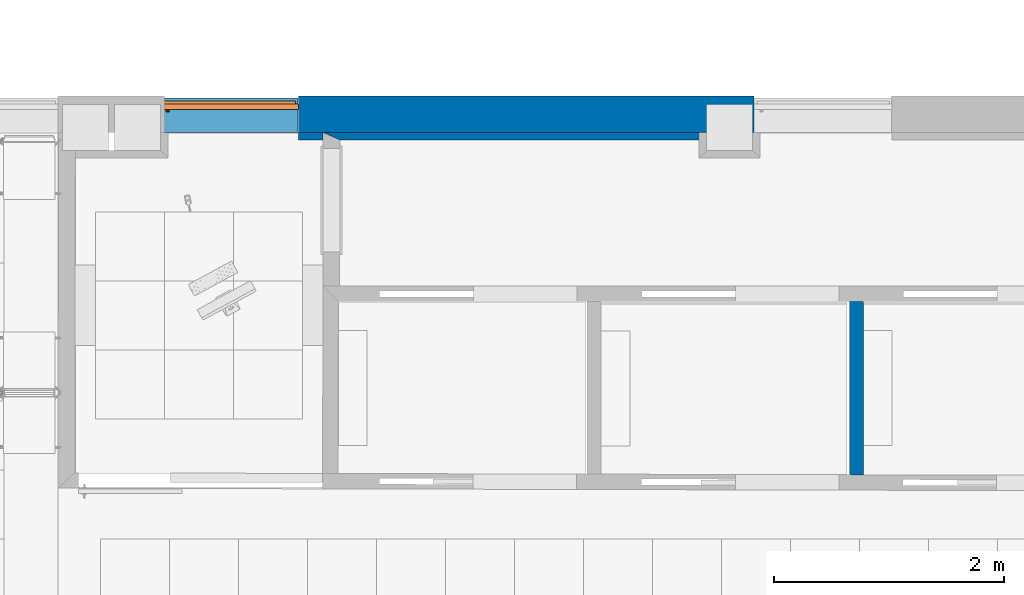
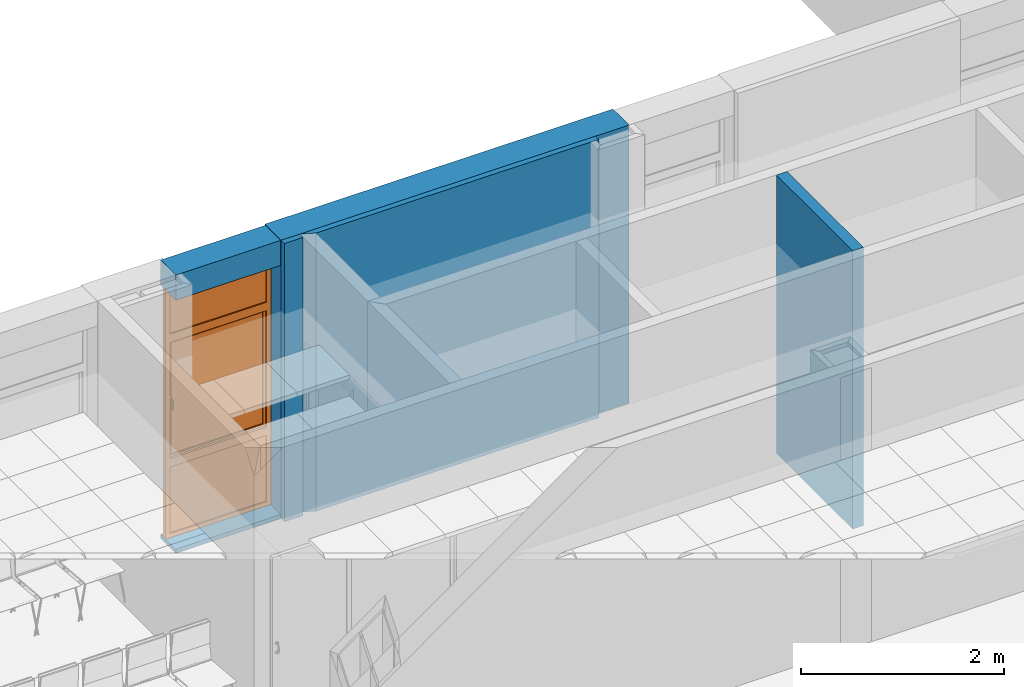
# One storey, part 29 of 68: 5 walls, 1 proxy, 1 opening.
"""IFC2X3 building model written with IfcOpenShell, lengths in millimetres."""

from ifc_helpers import new_model, entity, si_unit, converted_unit, derived_unit, money_unit, direction, frame, origin_with_axes, origin_2d_with_axis, place, context, subcontext, project, spatial, polyline, rectangle, outline, extrude, open_shell, faceted_brep, surface_model, source, transform, mapped, material, layer, layer_set, layer_usage, type_object, element, fill, save


model = new_model("IFC2X3")

# Units and contexts
model_context = context("Model", 3, precision=0.01, world=origin_with_axes(), true_north=direction((0.0, 1.0)))
body_context = subcontext(model_context, "Body", "Model", "MODEL_VIEW")
ifc_project = project(units=[si_unit("LENGTHUNIT", "METRE", prefix="MILLI"), si_unit("AREAUNIT", "SQUARE_METRE"), si_unit("VOLUMEUNIT", "CUBIC_METRE"), converted_unit("PLANEANGLEUNIT", "DEGREE", entity("IfcPlaneAngleMeasure", 0.0174532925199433), si_unit("PLANEANGLEUNIT", "RADIAN"), dimensions=[0, 0, 0, 0, 0, 0, 0]), money_unit("USD"), converted_unit("TIMEUNIT", "Year", entity("IfcTimeMeasure", 31557600.0), si_unit("TIMEUNIT", "SECOND"), dimensions=[0, 0, 1, 0, 0, 0, 0]), si_unit("MASSUNIT", "GRAM", prefix="KILO"), si_unit("THERMODYNAMICTEMPERATUREUNIT", "DEGREE_CELSIUS"), si_unit("LUMINOUSINTENSITYUNIT", "LUMEN"), si_unit("ENERGYUNIT", "JOULE", prefix="MEGA"), derived_unit("THERMALCONDUCTANCEUNIT", [(si_unit("POWERUNIT", "WATT"), 1), (si_unit("LENGTHUNIT", "METRE"), -1), (si_unit("THERMODYNAMICTEMPERATUREUNIT", "KELVIN"), -1)]), derived_unit("SPECIFICHEATCAPACITYUNIT", [(si_unit("ENERGYUNIT", "JOULE"), 1), (si_unit("MASSUNIT", "GRAM", prefix="KILO"), -1), (si_unit("THERMODYNAMICTEMPERATUREUNIT", "KELVIN"), -1)]), derived_unit("MASSDENSITYUNIT", [(si_unit("MASSUNIT", "GRAM", prefix="KILO"), 1), (si_unit("VOLUMEUNIT", "CUBIC_METRE"), -1)])], contexts=[model_context])

# Site, building, storey
site_placement = place(None, origin_with_axes())
site = spatial("IfcSite", under=ifc_project, at=site_placement, Name="Sitio", CompositionType="ELEMENT")
building_placement = place(site_placement, origin_with_axes())
building = spatial("IfcBuilding", under=site, at=building_placement, Name="Construcción", CompositionType="ELEMENT")
storey_placement = place(building_placement, origin_with_axes())
storey = spatial("IfcBuildingStorey", under=building, at=storey_placement, Name="PLANTA 1ª", CompositionType="ELEMENT", Elevation=0.0)

# Wall, opening, proxy
ifc_material_1 = material(Name="ARQ_AM246_Arrebossat_De_Guix")
ifc_layer_1 = layer(ifc_material_1, 20.0, ventilated="UNKNOWN")
ifc_material_2 = material(Name="ARQ_CE217_Gero")
ifc_layer_2 = layer(ifc_material_2, 110.0, ventilated="UNKNOWN")
ifc_material_3 = material(Name="ARQ_AI031_Aillament_Poliestireno expandido EPS")
ifc_layer_3 = layer(ifc_material_3, 100.0, ventilated="UNKNOWN")
ifc_material_4 = material(Name="ARQ_CE218_Ceramic")
ifc_layer_4 = layer(ifc_material_4, 50.0, ventilated="UNKNOWN")
ifc_layer_5 = layer(ifc_material_1, 20.0, ventilated="UNKNOWN")
ifc_layer_set_1 = layer_set([ifc_layer_1, ifc_layer_2, ifc_layer_3, ifc_layer_4, ifc_layer_5], Name="façana pati CR3 (ampit)")
ifc_layer_usage_1 = layer_usage(ifc_layer_set_1, "AXIS2", "POSITIVE", -300.0000000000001)
wall_type_1 = type_object("IfcWallType", Name="façana pati CR3 (ampit) 300", PredefinedType="NOTDEFINED")
wall_1_placement = place(storey_placement, frame((-11002.41799369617, -12338.97582371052, 0.0), z_axis=(0.0, 0.0, 1.0), x_axis=(-1.0, 0.0, 0.0)))
wall_1 = element("IfcWallStandardCase", 1, at=wall_1_placement, inside=storey, type_object=wall_type_1, material=ifc_layer_usage_1, Name="MS-201", context=body_context, shape_type="SweptSolid", body=[
    extrude(outline(polyline([(0.0, -300.0000000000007), (1194.999999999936, -300.0000000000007), (1194.999999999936, 0.0), (0.0, 0.0), (0.0, -300.0000000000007)])), origin_with_axes(), (0.0, 0.0, 1.0), 3350.0),
])
opening_placement = place(wall_1_placement, frame((594.9999999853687, 0.0, 50.0), z_axis=(0.0, 0.0, 1.0), x_axis=(1.0, 0.0, 0.0)))
opening = element("IfcOpeningElement", 2, at=opening_placement, cuts=wall_1, Name="F01", context=body_context, shape_type="SweptSolid", body=[
    extrude(rectangle(XDim=1200.000000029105, YDim=3000.0, at=origin_2d_with_axis()), frame((0.0, -250.0, 1500.0), z_axis=(0.0, -1.0, 0.0), x_axis=(-1.0, 0.0, 0.0)), (0.0, 0.0, -1.0), 550.0),
    extrude(rectangle(XDim=1200.000000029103, YDim=3000.0, at=origin_2d_with_axis()), frame((0.0, -250.0, 1500.0), z_axis=(0.0, 1.0, 0.0), x_axis=(-1.0, 0.0, 0.0)), (0.0, 0.0, -1.0), 350.0000000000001),
])
building_element_proxy_type = type_object("IfcBuildingElementProxyType", Name="Ventana Vertical Multi-Faja 27", PredefinedType="NOTDEFINED")
shared_shape = source(origin_with_axes(), body_context, "Body", "SurfaceModel", [
    faceted_brep([(-575.0000000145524, 0.0, 925.0), (-550.0000000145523, 0.0, 925.0), (-550.0000000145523, 0.0, 850.0), (-550.0000000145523, 0.0, 50.00000000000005), (-600.0000000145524, 0.0, 50.00000000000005), (-600.0000000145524, 0.0, 2950.0), (-550.0000000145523, 0.0, 2950.0), (-550.0000000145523, 0.0, 2450.0), (-550.0000000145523, 0.0, 2375.0), (-575.0000000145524, 0.0, 2375.0), (-575.0000000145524, -25.00000000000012, 925.0), (-550.0000000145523, -25.00000000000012, 925.0), (-550.0000000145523, -25.00000000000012, 950.0000000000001), (-550.0000000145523, -50.00000000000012, 950.0000000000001), (-550.0000000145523, -50.00000000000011, 850.0), (-550.0000000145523, -50.00000000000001, 50.00000000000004), (-600.0000000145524, -50.00000000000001, 50.00000000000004), (-600.0000000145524, -50.00000000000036, 2950.0), (-550.0000000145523, -50.00000000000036, 2950.0), (-550.0000000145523, -50.0000000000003, 2450.0), (-550.0000000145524, -25.00000000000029, 2375.0), (-550.0000000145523, -50.00000000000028, 2350.0), (-550.0000000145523, -25.00000000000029, 2350.0), (-575.0000000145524, -25.00000000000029, 2375.0)], [[[0, 1, 2, 3, 4, 5, 6, 7, 8, 9]], [[0, 10, 11, 1]], [[11, 12, 13, 14, 2, 1]], [[3, 2, 14, 15]], [[4, 3, 15, 16]], [[5, 4, 16, 17]], [[6, 5, 17, 18]], [[7, 6, 18, 19]], [[20, 8, 7, 19, 21, 22]], [[20, 23, 9, 8]], [[9, 23, 10, 0]], [[22, 12, 11, 10, 23, 20]], [[22, 21, 13, 12]], [[17, 16, 15, 14, 13, 21, 19, 18]]]),
    faceted_brep([(575.0000000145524, 0.0, 925.0), (575.0000000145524, 0.0, 2375.0), (550.0000000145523, 0.0, 2375.0), (550.0000000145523, 0.0, 2450.0), (550.0000000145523, 0.0, 2950.0), (600.0000000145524, 0.0, 2950.0), (600.0000000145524, 0.0, 50.00000000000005), (550.0000000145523, 0.0, 50.00000000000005), (550.0000000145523, 0.0, 850.0), (550.0000000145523, 0.0, 925.0), (575.0000000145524, -25.00000000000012, 925.0), (575.0000000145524, -25.00000000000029, 2375.0), (550.0000000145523, -25.00000000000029, 2375.0), (550.0000000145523, -25.00000000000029, 2350.0), (550.0000000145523, -50.00000000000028, 2350.0), (550.0000000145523, -50.0000000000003, 2450.0), (550.0000000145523, -50.00000000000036, 2950.0), (600.0000000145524, -50.00000000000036, 2950.0), (600.0000000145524, -50.00000000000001, 50.00000000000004), (550.0000000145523, -50.00000000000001, 50.00000000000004), (550.0000000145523, -50.00000000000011, 850.0), (550.0000000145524, -25.00000000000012, 925.0), (550.0000000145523, -50.00000000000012, 950.0000000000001), (550.0000000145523, -25.00000000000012, 950.0000000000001)], [[[0, 1, 2, 3, 4, 5, 6, 7, 8, 9]], [[0, 10, 11, 1]], [[1, 11, 12, 2]], [[12, 13, 14, 15, 3, 2]], [[4, 3, 15, 16]], [[5, 4, 16, 17]], [[6, 5, 17, 18]], [[7, 6, 18, 19]], [[8, 7, 19, 20]], [[21, 9, 8, 20, 22, 23]], [[9, 21, 10, 0]], [[12, 11, 10, 21, 23, 13]], [[23, 22, 14, 13]], [[14, 22, 20, 19, 18, 17, 16, 15]]]),
    faceted_brep([(-550.0000000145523, -25.00000000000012, 950.0000000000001), (-550.0000000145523, -50.00000000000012, 950.0000000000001), (550.0000000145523, -50.00000000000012, 950.0000000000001), (550.0000000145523, -25.00000000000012, 950.0000000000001), (-550.0000000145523, -25.00000000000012, 925.0), (-550.0000000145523, 0.0, 925.0), (-550.0000000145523, 0.0, 850.0), (-550.0000000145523, -50.00000000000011, 850.0), (550.0000000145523, -50.00000000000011, 850.0), (550.0000000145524, -25.00000000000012, 925.0), (550.0000000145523, 0.0, 850.0), (550.0000000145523, 0.0, 925.0)], [[[0, 1, 2, 3]], [[4, 5, 6, 7, 1, 0]], [[1, 7, 8, 2]], [[9, 3, 2, 8, 10, 11]], [[9, 4, 0, 3]], [[5, 4, 9, 11]], [[11, 10, 6, 5]], [[6, 10, 8, 7]]]),
    faceted_brep([(-550.0000000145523, 0.0, 2375.0), (-550.0000000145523, 0.0, 2450.0), (550.0000000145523, 0.0, 2450.0), (550.0000000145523, 0.0, 2375.0), (-550.0000000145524, -25.00000000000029, 2375.0), (-550.0000000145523, -25.00000000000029, 2350.0), (-550.0000000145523, -50.00000000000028, 2350.0), (-550.0000000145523, -50.0000000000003, 2450.0), (550.0000000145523, -50.0000000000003, 2450.0), (550.0000000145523, -25.00000000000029, 2375.0), (550.0000000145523, -50.00000000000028, 2350.0), (550.0000000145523, -25.00000000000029, 2350.0)], [[[0, 1, 2, 3]], [[4, 5, 6, 7, 1, 0]], [[2, 1, 7, 8]], [[9, 3, 2, 8, 10, 11]], [[9, 4, 0, 3]], [[11, 5, 4, 9]], [[11, 10, 6, 5]], [[7, 6, 10, 8]]]),
    faceted_brep([(550.0000000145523, -50.00000000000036, 2950.0), (550.0000000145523, 0.0, 2950.0), (600.0000000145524, 0.0, 2950.0), (600.0000000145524, -50.00000000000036, 2950.0), (-550.0000000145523, -50.00000000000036, 2950.0), (-550.0000000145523, 0.0, 2950.0), (-600.0000000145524, 0.0, 2950.0), (-600.0000000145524, 0.0, 3000.0), (600.0000000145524, 0.0, 3000.0), (600.0000000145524, -50.00000000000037, 3000.0), (-600.0000000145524, -50.00000000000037, 3000.0), (-600.0000000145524, -50.00000000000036, 2950.0)], [[[0, 1, 2, 3]], [[4, 5, 1, 0]], [[1, 5, 6, 7, 8, 2]], [[3, 2, 8, 9]], [[0, 3, 9, 10, 11, 4]], [[11, 6, 5, 4]], [[10, 7, 6, 11]], [[9, 8, 7, 10]]]),
    faceted_brep([(-550.0000000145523, -50.00000000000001, 50.0), (-550.0000000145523, 0.0, 50.00000000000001), (-600.0000000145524, 0.0, 50.00000000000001), (-600.0000000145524, -50.00000000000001, 50.0), (550.0000000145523, -50.00000000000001, 50.0), (550.0000000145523, 0.0, 50.00000000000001), (600.0000000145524, 0.0, 50.00000000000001), (600.0000000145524, 0.0, 0.0), (-600.0000000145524, 0.0, 0.0), (-600.0000000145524, -50.0, 0.0), (600.0000000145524, -50.0, 0.0), (600.0000000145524, -50.00000000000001, 50.0)], [[[0, 1, 2, 3]], [[4, 5, 1, 0]], [[1, 5, 6, 7, 8, 2]], [[3, 2, 8, 9]], [[0, 3, 9, 10, 11, 4]], [[11, 6, 5, 4]], [[10, 7, 6, 11]], [[9, 8, 7, 10]]]),
    surface_model("IfcShellBasedSurfaceModel", [(-550.0000000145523, -35.0, 49.99999999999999), (550.0000000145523, -35.0, 49.99999999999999), (550.0000000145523, -35.0000000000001, 850.0), (-550.0000000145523, -35.0000000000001, 850.0)], [open_shell([[[0, 1, 2, 3]]])]),
    surface_model("IfcShellBasedSurfaceModel", [(-550.0000000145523, -15.0, 49.99999999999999), (-550.0000000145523, -15.0000000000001, 850.0), (550.0000000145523, -15.0000000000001, 850.0), (550.0000000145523, -15.0, 49.99999999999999)], [open_shell([[[0, 1, 2, 3]]])]),
    faceted_brep([(-521.5000000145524, -25.00000000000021, 1677.0), (-522.839745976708, -25.00000000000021, 1682.0), (-522.839745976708, -37.00000000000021, 1682.0), (-521.5000000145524, -37.00000000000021, 1677.0), (-521.5000000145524, -25.0000000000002, 1623.0), (-522.839745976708, -25.0000000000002, 1618.0), (-526.5000000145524, -25.0000000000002, 1614.339745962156), (-531.5000000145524, -25.0000000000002, 1613.0), (-543.5000000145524, -25.0000000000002, 1613.0), (-548.5000000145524, -25.0000000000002, 1614.339745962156), (-552.1602540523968, -25.0000000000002, 1618.0), (-553.5000000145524, -25.0000000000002, 1623.0), (-553.5000000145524, -25.00000000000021, 1677.0), (-552.1602540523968, -25.00000000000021, 1682.0), (-548.5000000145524, -25.00000000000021, 1685.660254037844), (-543.5000000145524, -25.00000000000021, 1687.0), (-531.5000000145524, -25.00000000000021, 1687.0), (-526.5000000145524, -25.00000000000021, 1685.660254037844), (-526.5000000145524, -37.00000000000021, 1685.660254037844), (-531.5000000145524, -37.00000000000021, 1687.0), (-543.5000000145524, -37.00000000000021, 1687.0), (-548.5000000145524, -37.00000000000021, 1685.660254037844), (-552.1602540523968, -37.00000000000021, 1682.0), (-553.5000000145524, -37.00000000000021, 1677.0), (-553.5000000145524, -37.0000000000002, 1623.0), (-552.1602540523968, -37.0000000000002, 1618.0), (-548.5000000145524, -37.0000000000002, 1614.339745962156), (-543.5000000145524, -37.0000000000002, 1613.0), (-531.5000000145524, -37.0000000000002, 1613.0), (-526.5000000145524, -37.0000000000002, 1614.339745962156), (-522.839745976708, -37.0000000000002, 1618.0), (-521.5000000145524, -37.0000000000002, 1623.0)], [[[0, 1, 2, 3]], [[0, 4, 5, 6, 7, 8, 9, 10, 11, 12, 13, 14, 15, 16, 17, 1]], [[1, 17, 18, 2]], [[3, 2, 18, 19, 20, 21, 22, 23, 24, 25, 26, 27, 28, 29, 30, 31]], [[4, 0, 3, 31]], [[5, 4, 31, 30]], [[6, 5, 30, 29]], [[7, 6, 29, 28]], [[8, 7, 28, 27]], [[9, 8, 27, 26]], [[10, 9, 26, 25]], [[11, 10, 25, 24]], [[12, 11, 24, 23]], [[13, 12, 23, 22]], [[14, 13, 22, 21]], [[15, 14, 21, 20]], [[16, 15, 20, 19]], [[17, 16, 19, 18]]]),
    faceted_brep([(-537.5000000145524, -37.0000000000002, 1663.5), (-544.2500000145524, -37.0000000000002, 1661.69134295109), (-544.2500000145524, -61.00000000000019, 1661.69134295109), (-537.5000000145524, -61.00000000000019, 1663.5), (-530.7500000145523, -37.0000000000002, 1661.69134295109), (-525.8086570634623, -37.0000000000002, 1656.75), (-524.0000000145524, -37.0000000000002, 1650.0), (-525.8086570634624, -37.0000000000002, 1643.25), (-530.7500000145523, -37.0000000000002, 1638.30865704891), (-537.5000000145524, -37.0000000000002, 1636.5), (-544.2500000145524, -37.0000000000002, 1638.30865704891), (-549.1913429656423, -37.0000000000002, 1643.25), (-551.0000000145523, -37.0000000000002, 1650.0), (-549.1913429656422, -37.0000000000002, 1656.75), (-549.1913429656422, -61.00000000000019, 1656.75), (-551.0000000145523, -61.00000000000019, 1650.0), (-549.1913429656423, -61.00000000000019, 1643.25), (-544.2500000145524, -61.00000000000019, 1638.30865704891), (-537.5000000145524, -61.00000000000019, 1636.5), (-530.7500000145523, -61.00000000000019, 1638.30865704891), (-525.8086570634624, -61.00000000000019, 1643.25), (-524.0000000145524, -61.00000000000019, 1650.0), (-525.8086570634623, -61.00000000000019, 1656.75), (-530.7500000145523, -61.00000000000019, 1661.69134295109)], [[[0, 1, 2, 3]], [[0, 4, 5, 6, 7, 8, 9, 10, 11, 12, 13, 1]], [[1, 13, 14, 2]], [[3, 2, 14, 15, 16, 17, 18, 19, 20, 21, 22, 23]], [[4, 0, 3, 23]], [[5, 4, 23, 22]], [[6, 5, 22, 21]], [[7, 6, 21, 20]], [[8, 7, 20, 19]], [[9, 8, 19, 18]], [[10, 9, 18, 17]], [[11, 10, 17, 16]], [[12, 11, 16, 15]], [[13, 12, 15, 14]]]),
    faceted_brep([(-526.0000000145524, -61.00000000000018, 1543.0), (-537.5000000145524, -61.00000000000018, 1540.0), (-549.0000000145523, -61.00000000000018, 1543.0), (-551.0000000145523, -61.00000000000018, 1546.0), (-551.0000000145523, -61.00000000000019, 1650.0), (-549.1913429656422, -61.00000000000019, 1656.75), (-544.2500000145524, -61.00000000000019, 1661.69134295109), (-537.5000000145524, -61.00000000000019, 1663.5), (-530.7500000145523, -61.00000000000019, 1661.69134295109), (-525.8086570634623, -61.00000000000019, 1656.75), (-524.0000000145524, -61.00000000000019, 1650.0), (-524.0000000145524, -61.00000000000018, 1546.0), (-525.9999999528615, -69.00000000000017, 1543.000000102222), (-537.4999999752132, -69.00000000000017, 1539.999999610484), (-548.9999999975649, -69.00000000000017, 1543.000000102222), (-551.0000003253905, -69.00000000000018, 1545.999999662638), (-551.0000003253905, -69.0000000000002, 1649.99999994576), (-549.1913430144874, -69.0000000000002, 1656.749999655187), (-544.2499996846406, -69.0000000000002, 1661.691342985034), (-537.4999999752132, -69.0000000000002, 1663.500000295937), (-530.7500002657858, -69.0000000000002, 1661.691342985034), (-525.808656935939, -69.0000000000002, 1656.749999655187), (-523.9999996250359, -69.0000000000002, 1649.99999994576), (-523.9999996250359, -69.00000000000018, 1545.999999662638), (-527.8625374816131, -71.99999956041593, 1545.61451963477), (-537.4999999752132, -71.99999956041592, 1543.100398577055), (-547.1374624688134, -71.99999956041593, 1545.61451963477), (-548.0000007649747, -71.99999956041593, 1546.908326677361), (-548.0000007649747, -71.99999956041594, 1649.605042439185), (-546.5016170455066, -71.99999956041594, 1655.197085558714), (-542.6970855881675, -71.99999956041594, 1659.001617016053), (-537.4999999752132, -71.99999956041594, 1660.394172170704), (-532.302914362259, -71.99999956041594, 1659.001617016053), (-528.4983829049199, -71.99999956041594, 1655.197085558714), (-526.9999991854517, -71.99999956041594, 1649.605042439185), (-526.9999991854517, -71.99999956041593, 1546.908326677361)], [[[0, 1, 2, 3, 4, 5, 6, 7, 8, 9, 10, 11]], [[1, 0, 12, 13]], [[2, 1, 13, 14]], [[3, 2, 14, 15]], [[4, 3, 15, 16]], [[5, 4, 16, 17]], [[6, 5, 17, 18]], [[7, 6, 18, 19]], [[8, 7, 19, 20]], [[9, 8, 20, 21]], [[10, 9, 21, 22]], [[11, 10, 22, 23]], [[0, 11, 23, 12]], [[13, 12, 24, 25]], [[14, 13, 25, 26]], [[15, 14, 26, 27]], [[16, 15, 27, 28]], [[17, 16, 28, 29]], [[18, 17, 29, 30]], [[19, 18, 30, 31]], [[20, 19, 31, 32]], [[21, 20, 32, 33]], [[22, 21, 33, 34]], [[23, 22, 34, 35]], [[12, 23, 35, 24]], [[26, 25, 24, 35, 34, 33, 32, 31, 30, 29, 28, 27]]]),
    faceted_brep([(-525.0000000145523, -25.00000000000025, 2325.0), (-525.0000000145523, 24.99999999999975, 2325.0), (-575.0000000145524, 24.99999999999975, 2325.0), (-575.0000000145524, -25.00000000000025, 2325.0), (-525.0000000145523, -25.00000000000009, 975.0000000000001), (-525.0000000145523, 24.99999999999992, 975.0000000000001), (-575.0000000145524, 24.99999999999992, 975.0000000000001), (-575.0000000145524, -25.00000000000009, 975.0000000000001)], [[[0, 1, 2, 3]], [[4, 5, 1, 0]], [[1, 5, 6, 2]], [[3, 2, 6, 7]], [[0, 3, 7, 4]], [[7, 6, 5, 4]]]),
    faceted_brep([(525.0000000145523, -25.00000000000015, 975.0000000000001), (525.0000000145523, 24.99999999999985, 975.0000000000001), (575.0000000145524, 24.99999999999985, 975.0000000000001), (575.0000000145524, -25.00000000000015, 975.0000000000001), (525.0000000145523, -25.00000000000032, 2325.0), (525.0000000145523, 24.99999999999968, 2325.0), (575.0000000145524, 24.99999999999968, 2325.0), (575.0000000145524, -25.00000000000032, 2325.0)], [[[0, 1, 2, 3]], [[4, 5, 1, 0]], [[1, 5, 6, 2]], [[3, 2, 6, 7]], [[0, 3, 7, 4]], [[7, 6, 5, 4]]]),
    faceted_brep([(575.0000000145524, -25.00000000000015, 925.0), (575.0000000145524, 24.99999999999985, 925.0), (575.0000000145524, 24.99999999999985, 975.0000000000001), (575.0000000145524, -25.00000000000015, 975.0000000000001), (-575.0000000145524, -25.00000000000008, 925.0), (-575.0000000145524, 24.99999999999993, 925.0), (-575.0000000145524, 24.99999999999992, 975.0000000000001), (-525.0000000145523, 24.99999999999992, 975.0000000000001), (525.0000000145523, 24.99999999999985, 975.0000000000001), (525.0000000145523, -25.00000000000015, 975.0000000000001), (-525.0000000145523, -25.00000000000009, 975.0000000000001), (-575.0000000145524, -25.00000000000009, 975.0000000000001)], [[[0, 1, 2, 3]], [[4, 5, 1, 0]], [[1, 5, 6, 7, 8, 2]], [[3, 2, 8, 9]], [[0, 3, 9, 10, 11, 4]], [[11, 6, 5, 4]], [[10, 7, 6, 11]], [[9, 8, 7, 10]]]),
    faceted_brep([(-575.0000000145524, -25.00000000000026, 2375.0), (-575.0000000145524, 24.99999999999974, 2375.0), (-575.0000000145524, 24.99999999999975, 2325.0), (-575.0000000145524, -25.00000000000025, 2325.0), (575.0000000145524, -25.00000000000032, 2375.0), (575.0000000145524, 24.99999999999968, 2375.0), (575.0000000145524, 24.99999999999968, 2325.0), (525.0000000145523, 24.99999999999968, 2325.0), (-525.0000000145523, 24.99999999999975, 2325.0), (-525.0000000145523, -25.00000000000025, 2325.0), (525.0000000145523, -25.00000000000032, 2325.0), (575.0000000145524, -25.00000000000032, 2325.0)], [[[0, 1, 2, 3]], [[4, 5, 1, 0]], [[1, 5, 6, 7, 8, 2]], [[3, 2, 8, 9]], [[0, 3, 9, 10, 11, 4]], [[11, 6, 5, 4]], [[10, 7, 6, 11]], [[9, 8, 7, 10]]]),
    surface_model("IfcShellBasedSurfaceModel", [(-525.0000000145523, -10.00000000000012, 975.0000000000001), (525.0000000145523, -10.00000000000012, 975.0000000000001), (525.0000000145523, -10.00000000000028, 2325.0), (-525.0000000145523, -10.00000000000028, 2325.0)], [open_shell([[[0, 1, 2, 3]]])]),
    surface_model("IfcShellBasedSurfaceModel", [(-525.0000000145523, 9.999999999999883, 975.0000000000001), (-525.0000000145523, 9.99999999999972, 2325.0), (525.0000000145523, 9.99999999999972, 2325.0), (525.0000000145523, 9.999999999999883, 975.0000000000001)], [open_shell([[[0, 1, 2, 3]]])]),
    surface_model("IfcShellBasedSurfaceModel", [(-550.0000000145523, -35.0000000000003, 2450.0), (550.0000000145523, -35.0000000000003, 2450.0), (550.0000000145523, -35.00000000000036, 2950.0), (-550.0000000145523, -35.00000000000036, 2950.0)], [open_shell([[[0, 1, 2, 3]]])]),
    surface_model("IfcShellBasedSurfaceModel", [(-550.0000000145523, -15.0000000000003, 2450.0), (-550.0000000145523, -15.00000000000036, 2950.0), (550.0000000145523, -15.00000000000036, 2950.0), (550.0000000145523, -15.0000000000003, 2450.0)], [open_shell([[[0, 1, 2, 3]]])]),
])
proxy_placement = place(opening_placement, frame((600.0000000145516, 0.0, 0.0), z_axis=(0.0, 0.0, 1.0), x_axis=(-1.0, 0.0, 0.0)))
proxy = element("IfcBuildingElementProxy", 3, at=proxy_placement, inside=storey, type_object=building_element_proxy_type, Name="F01", context=body_context, shape_type="MappedRepresentation", body=[
    mapped(shared_shape, transform((600.0000000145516, 250.0, 0.0))),
])
fill(opening, proxy)

# Walls
ifc_layer_6 = layer(ifc_material_2, 150.0, ventilated="UNKNOWN")
ifc_layer_7 = layer(ifc_material_3, 100.0, ventilated="UNKNOWN")
ifc_layer_8 = layer(ifc_material_4, 50.0, ventilated="UNKNOWN")
ifc_layer_9 = layer(ifc_material_1, 20.0, ventilated="UNKNOWN")
ifc_layer_set_2 = layer_set([ifc_layer_6, ifc_layer_7, ifc_layer_8, ifc_layer_9], Name="façana pati CR3")
ifc_layer_usage_2 = layer_usage(ifc_layer_set_2, "AXIS2", "POSITIVE", -320.0)
wall_type_2 = type_object("IfcWallType", Name="façana pati CR3 320", PredefinedType="NOTDEFINED")
wall_2_placement = place(storey_placement, frame((-7036.109004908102, -12338.97582371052, 0.0), z_axis=(0.0, 0.0, 1.0), x_axis=(-1.0, 0.0, 0.0)))
element("IfcWallStandardCase", 4, at=wall_2_placement, inside=storey, type_object=wall_type_2, material=ifc_layer_usage_2, Name="MS-201", context=body_context, shape_type="SweptSolid", body=[
    extrude(outline(polyline([(0.0, -320.0000000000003), (3961.308988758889, -320.0000000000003), (3961.308988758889, 0.0), (0.0, 0.0), (0.0, -320.0000000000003)])), origin_with_axes(), (0.0, 0.0, 1.0), 3350.0),
])
ifc_material_5 = material(Name="ARQ_FU093_Panellat_HPL")
ifc_layer_10 = layer(ifc_material_5, 6.0, ventilated="UNKNOWN")
ifc_material_6 = material(Name="ARQ_EN271_Camara_Aire")
ifc_layer_11 = layer(ifc_material_6, 6.0, ventilated="UNKNOWN")
ifc_material_7 = material(Name="Panel de Yeso Laminado")
ifc_layer_12 = layer(ifc_material_7, 13.0, ventilated="UNKNOWN")
ifc_material_8 = material(Name="ARQ_AI033_Aillament_Llana_De_Roca")
ifc_layer_13 = layer(ifc_material_8, 40.0, ventilated="UNKNOWN")
ifc_layer_set_3 = layer_set([ifc_layer_10, ifc_layer_11, ifc_layer_12, ifc_layer_13], Name="Pladur Tras 40 / 1N +HPL")
ifc_layer_usage_3 = layer_usage(ifc_layer_set_3, "AXIS2", "POSITIVE", 0.0)
wall_type_3 = type_object("IfcWallType", Name="Pladur Tras 40 / 1N +HPL 65", PredefinedType="NOTDEFINED")
wall_3_placement = place(storey_placement, frame((-10637.99535680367, -12403.97582371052, 0.0), z_axis=(0.0, 0.0, 1.0), x_axis=(1.0, 0.0, 0.0)))
element("IfcWallStandardCase", 5, at=wall_3_placement, inside=storey, type_object=wall_type_3, material=ifc_layer_usage_3, Name="MS-217", context=body_context, shape_type="SweptSolid", body=[
    extrude(outline(polyline([(0.0, 0.0), (3219.838152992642, 0.0), (3219.838152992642, 64.9999999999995), (-145.9040832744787, 64.9999999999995), (0.0, 0.0)])), origin_with_axes(), (0.0, 0.0, 1.0), 3350.0),
])
ifc_layer_usage_4 = layer_usage(ifc_layer_set_3, "AXIS2", "POSITIVE", 0.0)
wall_4_placement = place(storey_placement, frame((-10997.41799366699, -12403.97582371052, 0.0), z_axis=(0.0, 0.0, 1.0), x_axis=(1.0, 0.0, 0.0)))
element("IfcWallStandardCase", 6, at=wall_4_placement, inside=storey, type_object=wall_type_3, material=ifc_layer_usage_4, Name="MS-217", context=body_context, shape_type="SweptSolid", body=[
    extrude(outline(polyline([(0.0, 0.0), (213.4224773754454, 0.0), (213.5185535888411, 64.9999999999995), (0.0, 64.9999999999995), (0.0, 0.0)])), origin_with_axes(), (0.0, 0.0, 1.0), 3350.0),
])
ifc_material_9 = material(Name="ARQ_CG063_Guix_Laminat_Hydro")
ifc_layer_14 = layer(ifc_material_9, 13.0, ventilated="UNKNOWN")
ifc_layer_15 = layer(ifc_material_9, 13.0, ventilated="UNKNOWN")
ifc_layer_16 = layer(ifc_material_8, 70.0, ventilated="UNKNOWN")
ifc_layer_17 = layer(ifc_material_9, 13.0, ventilated="UNKNOWN")
ifc_layer_18 = layer(ifc_material_9, 13.0, ventilated="UNKNOWN")
ifc_layer_set_4 = layer_set([ifc_layer_14, ifc_layer_15, ifc_layer_16, ifc_layer_17, ifc_layer_18], Name="CR Pladur 70 / 2H+2H")
ifc_layer_usage_5 = layer_usage(ifc_layer_set_4, "AXIS2", "POSITIVE", -61.0)
wall_type_4 = type_object("IfcWallType", Name="CR Pladur 70 / 2H+2H 122", PredefinedType="NOTDEFINED")
wall_5_placement = place(storey_placement, frame((-6147.086499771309, -15314.07708993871, 0.0), z_axis=(0.0, 0.0, 1.0), x_axis=(0.0, 1.0, 0.0)))
element("IfcWallStandardCase", 7, at=wall_5_placement, inside=storey, type_object=wall_type_4, material=ifc_layer_usage_5, Name="MS-205", context=body_context, shape_type="SweptSolid", body=[
    extrude(outline(polyline([(-0.1511702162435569, -60.99999999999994), (1505.516435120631, -60.99999999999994), (1505.516435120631, 60.99999999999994), (0.1511702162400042, 60.99999999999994), (-0.1511702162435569, -60.99999999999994)])), origin_with_axes(), (0.0, 0.0, 1.0), 3350.0),
])

save(model, "model.ifc")
